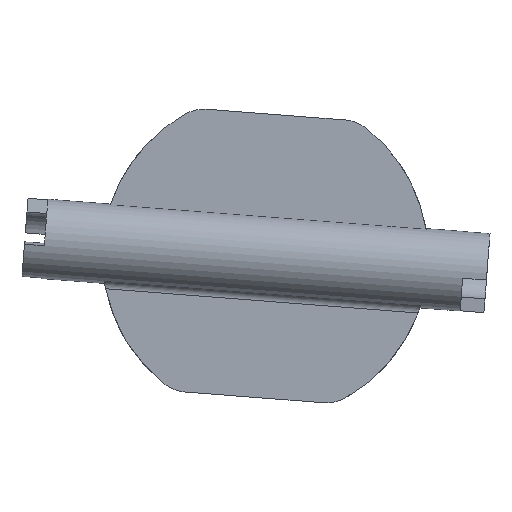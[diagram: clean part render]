
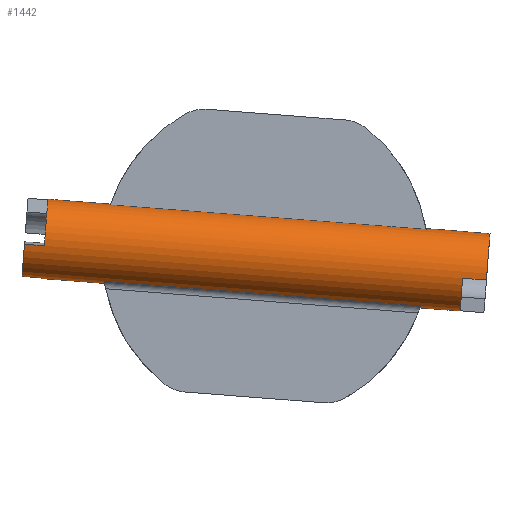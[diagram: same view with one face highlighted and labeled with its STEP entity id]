
A CAD part, front view. The second image highlights one B-rep face of the part: STEP entity #1442.
In plain terms, the highlighted cylindrical face has radius 5 mm (diameter 10 mm), a partial arc.
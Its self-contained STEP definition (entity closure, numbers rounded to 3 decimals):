
#1=DIRECTION('',(0.997,0.,-0.077));
#2=VECTOR('',#1,39.812);
#3=CARTESIAN_POINT('',(861.607,-1.,125.82));
#4=LINE('',#3,#2);
#37=DIRECTION('',(0.997,0.,-0.077));
#38=VECTOR('',#37,39.901);
#39=CARTESIAN_POINT('',(860.82,-1.667,116.239));
#40=LINE('',#39,#38);
#41=DIRECTION('',(-0.997,0.,0.077));
#42=VECTOR('',#41,2.5);
#43=CARTESIAN_POINT('',(852.969,-0.868,116.637));
#44=LINE('',#43,#42);
#45=DIRECTION('',(0.997,0.,-0.077));
#46=VECTOR('',#45,7.927);
#47=CARTESIAN_POINT('',(853.737,0.,126.532));
#48=LINE('',#47,#46);
#49=DIRECTION('',(0.997,0.,-0.077));
#50=VECTOR('',#49,5.085);
#51=CARTESIAN_POINT('',(901.283,0.,122.845));
#52=LINE('',#51,#50);
#53=CARTESIAN_POINT('',(905.966,0.,117.467));
#54=DIRECTION('',(0.997,0.,-0.077));
#55=DIRECTION('',(0.077,0.,0.997));
#56=AXIS2_PLACEMENT_3D('',#53,#54,#55);
#58=DIRECTION('',(-0.997,0.,0.077));
#59=VECTOR('',#58,3.);
#60=CARTESIAN_POINT('',(909.342,-0.436,122.201));
#61=LINE('',#60,#59);
#62=CARTESIAN_POINT('',(905.966,0.,117.467));
#63=DIRECTION('',(0.997,0.,-0.077));
#64=DIRECTION('',(-0.013,-0.985,-0.173));
#65=AXIS2_PLACEMENT_3D('',#62,#63,#64);
#112=CARTESIAN_POINT('',(861.607,-1.,125.82));
#113=CARTESIAN_POINT('',(861.615,-0.89,125.842));
#114=CARTESIAN_POINT('',(861.627,-0.67,125.878));
#115=CARTESIAN_POINT('',(861.638,-0.334,125.912));
#116=CARTESIAN_POINT('',(861.64,-0.111,125.919));
#117=CARTESIAN_POINT('',(861.64,0.,
125.919));
#119=CARTESIAN_POINT('',(860.867,0.,
115.949));
#120=CARTESIAN_POINT('',(860.867,-0.189,115.949));
#121=CARTESIAN_POINT('',(860.863,-0.564,115.97));
#122=CARTESIAN_POINT('',(860.847,-1.123,116.067));
#123=CARTESIAN_POINT('',(860.83,-1.487,116.175));
#124=CARTESIAN_POINT('',(860.82,-1.667,116.239));
#155=DIRECTION('',(0.997,0.,-0.077));
#156=VECTOR('',#155,7.927);
#157=CARTESIAN_POINT('',(852.963,0.,116.562));
#158=LINE('',#157,#156);
#159=DIRECTION('',(0.997,0.,-0.077));
#160=VECTOR('',#159,5.085);
#161=CARTESIAN_POINT('',(900.51,0.,
112.875));
#162=LINE('',#161,#160);
#429=CARTESIAN_POINT('',(901.283,0.,122.845));
#430=CARTESIAN_POINT('',(901.283,-0.111,122.845));
#431=CARTESIAN_POINT('',(901.284,-0.334,122.837));
#432=CARTESIAN_POINT('',(901.29,-0.67,122.803));
#433=CARTESIAN_POINT('',(901.296,-0.89,122.765));
#434=CARTESIAN_POINT('',(901.3,-1.,122.742));
#450=CARTESIAN_POINT('',(900.601,-1.667,113.155));
#451=CARTESIAN_POINT('',(900.582,-1.487,113.092));
#452=CARTESIAN_POINT('',(900.548,-1.123,112.989));
#453=CARTESIAN_POINT('',(900.517,-0.564,112.896));
#454=CARTESIAN_POINT('',(900.51,-0.189,112.875));
#455=CARTESIAN_POINT('',(900.51,0.,
112.875));
#457=CARTESIAN_POINT('',(900.51,0.,
112.875));
#863=CARTESIAN_POINT('',(853.35,0.,121.547));
#864=DIRECTION('',(0.997,0.,-0.077));
#865=DIRECTION('',(0.077,0.,0.997));
#866=AXIS2_PLACEMENT_3D('',#863,#864,#865);
#891=CARTESIAN_POINT('',(853.35,0.,121.547));
#892=DIRECTION('',(0.997,0.,-0.077));
#893=DIRECTION('',(-0.076,-0.174,-0.982));
#894=AXIS2_PLACEMENT_3D('',#891,#892,#893);
#917=DIRECTION('',(-0.997,0.,0.077));
#918=VECTOR('',#917,2.5);
#919=CARTESIAN_POINT('',(853.283,-4.924,120.681));
#920=LINE('',#919,#918);
#930=CARTESIAN_POINT('',(850.857,0.,121.74));
#931=DIRECTION('',(-0.997,0.,0.077));
#932=DIRECTION('',(-0.076,-0.174,-0.982));
#933=AXIS2_PLACEMENT_3D('',#930,#931,#932);
#992=CARTESIAN_POINT('',(908.957,0.,117.235));
#993=DIRECTION('',(0.997,0.,-0.077));
#994=DIRECTION('',(0.077,-0.087,0.993));
#995=AXIS2_PLACEMENT_3D('',#992,#993,#994);
#1005=DIRECTION('',(-0.997,0.,0.077));
#1006=VECTOR('',#1005,3.);
#1007=CARTESIAN_POINT('',(908.89,-4.924,116.369));
#1008=LINE('',#1007,#1006);
#1077=CARTESIAN_POINT('',(852.963,0.,116.562));
#1078=CARTESIAN_POINT('',(860.867,0.,
115.949));
#1079=VERTEX_POINT('',#1077);
#1080=VERTEX_POINT('',#1078);
#1081=CARTESIAN_POINT('',(853.737,0.,126.532));
#1082=CARTESIAN_POINT('',(861.64,0.,
125.919));
#1083=VERTEX_POINT('',#1081);
#1084=VERTEX_POINT('',#1082);
#1093=CARTESIAN_POINT('',(909.342,-0.436,
122.201));
#1094=CARTESIAN_POINT('',(908.89,-4.924,116.369));
#1095=VERTEX_POINT('',#1093);
#1096=VERTEX_POINT('',#1094);
#1097=CARTESIAN_POINT('',(906.351,-0.436,
122.433));
#1098=VERTEX_POINT('',#1097);
#1099=CARTESIAN_POINT('',(905.899,-4.924,116.601));
#1100=VERTEX_POINT('',#1099);
#1109=CARTESIAN_POINT('',(850.477,-0.868,
116.831));
#1110=CARTESIAN_POINT('',(850.79,-4.924,120.874));
#1111=VERTEX_POINT('',#1109);
#1112=VERTEX_POINT('',#1110);
#1113=CARTESIAN_POINT('',(852.969,-0.868,
116.637));
#1114=VERTEX_POINT('',#1113);
#1115=CARTESIAN_POINT('',(853.283,-4.924,120.681));
#1116=VERTEX_POINT('',#1115);
#1149=CARTESIAN_POINT('',(861.607,-1.,125.82));
#1150=CARTESIAN_POINT('',(901.3,-1.,122.742));
#1151=VERTEX_POINT('',#1149);
#1152=VERTEX_POINT('',#1150);
#1157=VERTEX_POINT('',#457);
#1158=VERTEX_POINT('',#429);
#1159=CARTESIAN_POINT('',(905.58,0.,112.482));
#1160=VERTEX_POINT('',#1159);
#1161=CARTESIAN_POINT('',(906.353,0.,122.452));
#1162=VERTEX_POINT('',#1161);
#1175=CARTESIAN_POINT('',(860.82,-1.667,116.239));
#1176=CARTESIAN_POINT('',(900.601,-1.667,113.155));
#1177=VERTEX_POINT('',#1175);
#1178=VERTEX_POINT('',#1176);
#1396=CARTESIAN_POINT('',(853.35,0.,121.547));
#1397=DIRECTION('',(0.997,0.,-0.077));
#1398=DIRECTION('',(-0.077,0.,-0.997));
#1399=AXIS2_PLACEMENT_3D('',#1396,#1397,#1398);
#1400=CYLINDRICAL_SURFACE('',#1399,5.);
#1402=ORIENTED_EDGE('',*,*,#1401,.F.);
#1404=ORIENTED_EDGE('',*,*,#1403,.F.);
#1406=ORIENTED_EDGE('',*,*,#1405,.F.);
#1408=ORIENTED_EDGE('',*,*,#1407,.F.);
#1410=ORIENTED_EDGE('',*,*,#1409,.T.);
#1412=ORIENTED_EDGE('',*,*,#1411,.T.);
#1414=ORIENTED_EDGE('',*,*,#1413,.F.);
#1416=ORIENTED_EDGE('',*,*,#1415,.F.);
#1418=ORIENTED_EDGE('',*,*,#1417,.T.);
#1420=ORIENTED_EDGE('',*,*,#1419,.F.);
#1421=ORIENTED_EDGE('',*,*,#1361,.T.);
#1423=ORIENTED_EDGE('',*,*,#1422,.F.);
#1425=ORIENTED_EDGE('',*,*,#1424,.T.);
#1427=ORIENTED_EDGE('',*,*,#1426,.T.);
#1429=ORIENTED_EDGE('',*,*,#1428,.F.);
#1431=ORIENTED_EDGE('',*,*,#1430,.T.);
#1433=ORIENTED_EDGE('',*,*,#1432,.T.);
#1435=ORIENTED_EDGE('',*,*,#1434,.T.);
#1437=ORIENTED_EDGE('',*,*,#1436,.F.);
#1439=ORIENTED_EDGE('',*,*,#1438,.F.);
#1440=EDGE_LOOP('',(#1402,#1404,#1406,#1408,#1410,#1412,#1414,#1416,#1418,#1420,
#1421,#1423,#1425,#1427,#1429,#1431,#1433,#1435,#1437,#1439));
#1441=FACE_OUTER_BOUND('',#1440,.F.);
#1442=ADVANCED_FACE('',(#1441),#1400,.T.);
#57=CIRCLE('',#56,5.);
#66=CIRCLE('',#65,5.);
#118=B_SPLINE_CURVE_WITH_KNOTS('',3,(#112,#113,#114,#115,#116,#117),
.UNSPECIFIED.,.F.,.F.,(4,1,1,4),(0.,0.333,0.667,1.),
.UNSPECIFIED.);
#125=B_SPLINE_CURVE_WITH_KNOTS('',3,(#119,#120,#121,#122,#123,#124),
.UNSPECIFIED.,.F.,.F.,(4,1,1,4),(0.,0.333,0.667,1.),
.UNSPECIFIED.);
#435=B_SPLINE_CURVE_WITH_KNOTS('',3,(#429,#430,#431,#432,#433,#434),
.UNSPECIFIED.,.F.,.F.,(4,1,1,4),(0.,0.333,0.667,1.),
.UNSPECIFIED.);
#456=B_SPLINE_CURVE_WITH_KNOTS('',3,(#450,#451,#452,#453,#454,#455),
.UNSPECIFIED.,.F.,.F.,(4,1,1,4),(0.,0.333,0.667,1.),
.UNSPECIFIED.);
#867=CIRCLE('',#866,5.);
#895=CIRCLE('',#894,5.);
#934=CIRCLE('',#933,5.);
#996=CIRCLE('',#995,5.);
#1361=EDGE_CURVE('',#1151,#1152,#4,.T.);
#1401=EDGE_CURVE('',#1177,#1178,#40,.T.);
#1403=EDGE_CURVE('',#1080,#1177,#125,.T.);
#1405=EDGE_CURVE('',#1079,#1080,#158,.T.);
#1407=EDGE_CURVE('',#1114,#1079,#895,.T.);
#1409=EDGE_CURVE('',#1114,#1111,#44,.T.);
#1411=EDGE_CURVE('',#1111,#1112,#934,.T.);
#1413=EDGE_CURVE('',#1116,#1112,#920,.T.);
#1415=EDGE_CURVE('',#1083,#1116,#867,.T.);
#1417=EDGE_CURVE('',#1083,#1084,#48,.T.);
#1419=EDGE_CURVE('',#1151,#1084,#118,.T.);
#1422=EDGE_CURVE('',#1158,#1152,#435,.T.);
#1424=EDGE_CURVE('',#1158,#1162,#52,.T.);
#1426=EDGE_CURVE('',#1162,#1098,#57,.T.);
#1428=EDGE_CURVE('',#1095,#1098,#61,.T.);
#1430=EDGE_CURVE('',#1095,#1096,#996,.T.);
#1432=EDGE_CURVE('',#1096,#1100,#1008,.T.);
#1434=EDGE_CURVE('',#1100,#1160,#66,.T.);
#1436=EDGE_CURVE('',#1157,#1160,#162,.T.);
#1438=EDGE_CURVE('',#1178,#1157,#456,.T.);
